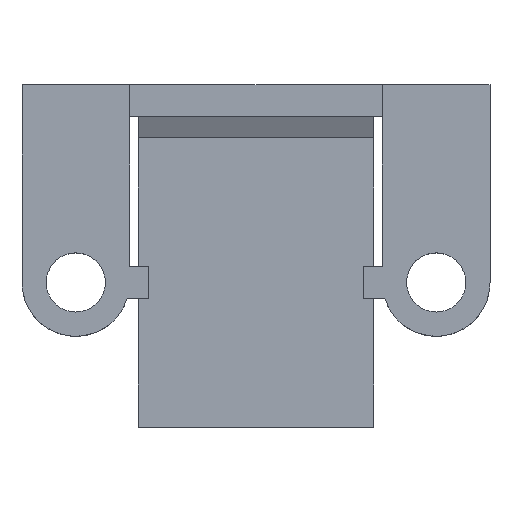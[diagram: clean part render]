
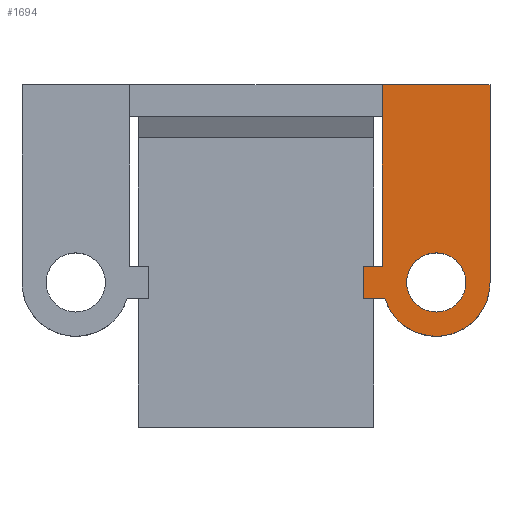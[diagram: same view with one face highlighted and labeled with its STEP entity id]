
A CAD part, top view. The second image highlights one B-rep face of the part: STEP entity #1694.
In plain terms, the highlighted planar face has unit normal (0, 0, 1).
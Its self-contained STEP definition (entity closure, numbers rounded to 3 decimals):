
#627 = PLANE('',#628);
#628 = AXIS2_PLACEMENT_3D('',#629,#630,#631);
#629 = CARTESIAN_POINT('',(-8.558,1.234,7.9));
#630 = DIRECTION('',(-0.,1.,0.));
#631 = DIRECTION('',(0.,0.,1.));
#767 = VERTEX_POINT('',#768);
#768 = CARTESIAN_POINT('',(4.842,1.234,9.1));
#782 = PLANE('',#783);
#783 = AXIS2_PLACEMENT_3D('',#784,#785,#786);
#784 = CARTESIAN_POINT('',(4.842,-6.116,7.9));
#785 = DIRECTION('',(1.,0.,-0.));
#786 = DIRECTION('',(0.,0.,1.));
#794 = EDGE_CURVE('',#767,#795,#797,.T.);
#795 = VERTEX_POINT('',#796);
#796 = CARTESIAN_POINT('',(8.842,1.234,9.1));
#797 = SURFACE_CURVE('',#798,(#802,#809),.PCURVE_S1.);
#798 = LINE('',#799,#800);
#799 = CARTESIAN_POINT('',(4.842,1.234,9.1));
#800 = VECTOR('',#801,1.);
#801 = DIRECTION('',(1.,0.,-0.));
#802 = PCURVE('',#627,#803);
#803 = DEFINITIONAL_REPRESENTATION('',(#804),#808);
#804 = LINE('',#805,#806);
#805 = CARTESIAN_POINT('',(1.2,13.4));
#806 = VECTOR('',#807,1.);
#807 = DIRECTION('',(0.,1.));
#808 = ( GEOMETRIC_REPRESENTATION_CONTEXT(2) 
PARAMETRIC_REPRESENTATION_CONTEXT() REPRESENTATION_CONTEXT('2D SPACE',''
  ) );
#809 = PCURVE('',#810,#815);
#810 = PLANE('',#811);
#811 = AXIS2_PLACEMENT_3D('',#812,#813,#814);
#812 = CARTESIAN_POINT('',(4.122,-6.716,9.1));
#813 = DIRECTION('',(0.,0.,1.));
#814 = DIRECTION('',(1.,0.,-0.));
#815 = DEFINITIONAL_REPRESENTATION('',(#816),#820);
#816 = LINE('',#817,#818);
#817 = CARTESIAN_POINT('',(0.72,7.95));
#818 = VECTOR('',#819,1.);
#819 = DIRECTION('',(1.,0.));
#820 = ( GEOMETRIC_REPRESENTATION_CONTEXT(2) 
PARAMETRIC_REPRESENTATION_CONTEXT() REPRESENTATION_CONTEXT('2D SPACE',''
  ) );
#836 = PLANE('',#837);
#837 = AXIS2_PLACEMENT_3D('',#838,#839,#840);
#838 = CARTESIAN_POINT('',(8.842,-6.116,7.9));
#839 = DIRECTION('',(1.,0.,-0.));
#840 = DIRECTION('',(0.,0.,1.));
#854 = VERTEX_POINT('',#855);
#855 = CARTESIAN_POINT('',(8.842,-6.116,9.1));
#869 = CYLINDRICAL_SURFACE('',#870,2.);
#870 = AXIS2_PLACEMENT_3D('',#871,#872,#873);
#871 = CARTESIAN_POINT('',(6.842,-6.116,7.5));
#872 = DIRECTION('',(0.,0.,1.));
#873 = DIRECTION('',(1.,0.,-0.));
#902 = EDGE_CURVE('',#854,#795,#903,.T.);
#903 = SURFACE_CURVE('',#904,(#908,#915),.PCURVE_S1.);
#904 = LINE('',#905,#906);
#905 = CARTESIAN_POINT('',(8.842,-6.116,9.1));
#906 = VECTOR('',#907,1.);
#907 = DIRECTION('',(-0.,1.,0.));
#908 = PCURVE('',#836,#909);
#909 = DEFINITIONAL_REPRESENTATION('',(#910),#914);
#910 = LINE('',#911,#912);
#911 = CARTESIAN_POINT('',(1.2,0.));
#912 = VECTOR('',#913,1.);
#913 = DIRECTION('',(0.,-1.));
#914 = ( GEOMETRIC_REPRESENTATION_CONTEXT(2) 
PARAMETRIC_REPRESENTATION_CONTEXT() REPRESENTATION_CONTEXT('2D SPACE',''
  ) );
#915 = PCURVE('',#810,#916);
#916 = DEFINITIONAL_REPRESENTATION('',(#917),#921);
#917 = LINE('',#918,#919);
#918 = CARTESIAN_POINT('',(4.72,0.6));
#919 = VECTOR('',#920,1.);
#920 = DIRECTION('',(0.,1.));
#921 = ( GEOMETRIC_REPRESENTATION_CONTEXT(2) 
PARAMETRIC_REPRESENTATION_CONTEXT() REPRESENTATION_CONTEXT('2D SPACE',''
  ) );
#950 = EDGE_CURVE('',#951,#854,#953,.T.);
#951 = VERTEX_POINT('',#952);
#952 = CARTESIAN_POINT('',(4.934,-6.716,9.1));
#953 = SURFACE_CURVE('',#954,(#959,#965),.PCURVE_S1.);
#954 = CIRCLE('',#955,2.);
#955 = AXIS2_PLACEMENT_3D('',#956,#957,#958);
#956 = CARTESIAN_POINT('',(6.842,-6.116,9.1));
#957 = DIRECTION('',(0.,0.,1.));
#958 = DIRECTION('',(1.,0.,-0.));
#959 = PCURVE('',#869,#960);
#960 = DEFINITIONAL_REPRESENTATION('',(#961),#964);
#961 = B_SPLINE_CURVE_WITH_KNOTS('',1,(#962,#963),.UNSPECIFIED.,.F.,.F.,
  (2,2),(3.446,6.283),.PIECEWISE_BEZIER_KNOTS.);
#962 = CARTESIAN_POINT('',(3.446,1.6));
#963 = CARTESIAN_POINT('',(6.283,1.6));
#964 = ( GEOMETRIC_REPRESENTATION_CONTEXT(2) 
PARAMETRIC_REPRESENTATION_CONTEXT() REPRESENTATION_CONTEXT('2D SPACE',''
  ) );
#965 = PCURVE('',#810,#966);
#966 = DEFINITIONAL_REPRESENTATION('',(#967),#971);
#967 = CIRCLE('',#968,2.);
#968 = AXIS2_PLACEMENT_2D('',#969,#970);
#969 = CARTESIAN_POINT('',(2.72,0.6));
#970 = DIRECTION('',(1.,0.));
#971 = ( GEOMETRIC_REPRESENTATION_CONTEXT(2) 
PARAMETRIC_REPRESENTATION_CONTEXT() REPRESENTATION_CONTEXT('2D SPACE',''
  ) );
#988 = PLANE('',#989);
#989 = AXIS2_PLACEMENT_3D('',#990,#991,#992);
#990 = CARTESIAN_POINT('',(4.122,-6.716,7.5));
#991 = DIRECTION('',(-0.,1.,0.));
#992 = DIRECTION('',(0.,0.,1.));
#1046 = PLANE('',#1047);
#1047 = AXIS2_PLACEMENT_3D('',#1048,#1049,#1050);
#1048 = CARTESIAN_POINT('',(4.122,-5.516,7.5));
#1049 = DIRECTION('',(-0.,1.,0.));
#1050 = DIRECTION('',(0.,0.,1.));
#1136 = VERTEX_POINT('',#1137);
#1137 = CARTESIAN_POINT('',(4.122,-5.516,9.1));
#1151 = PLANE('',#1152);
#1152 = AXIS2_PLACEMENT_3D('',#1153,#1154,#1155);
#1153 = CARTESIAN_POINT('',(4.122,-6.716,7.5));
#1154 = DIRECTION('',(1.,0.,-0.));
#1155 = DIRECTION('',(0.,0.,1.));
#1163 = EDGE_CURVE('',#1136,#1164,#1166,.T.);
#1164 = VERTEX_POINT('',#1165);
#1165 = CARTESIAN_POINT('',(4.842,-5.516,9.1));
#1166 = SURFACE_CURVE('',#1167,(#1171,#1178),.PCURVE_S1.);
#1167 = LINE('',#1168,#1169);
#1168 = CARTESIAN_POINT('',(4.122,-5.516,9.1));
#1169 = VECTOR('',#1170,1.);
#1170 = DIRECTION('',(1.,0.,-0.));
#1171 = PCURVE('',#1046,#1172);
#1172 = DEFINITIONAL_REPRESENTATION('',(#1173),#1177);
#1173 = LINE('',#1174,#1175);
#1174 = CARTESIAN_POINT('',(1.6,0.));
#1175 = VECTOR('',#1176,1.);
#1176 = DIRECTION('',(0.,1.));
#1177 = ( GEOMETRIC_REPRESENTATION_CONTEXT(2) 
PARAMETRIC_REPRESENTATION_CONTEXT() REPRESENTATION_CONTEXT('2D SPACE',''
  ) );
#1178 = PCURVE('',#810,#1179);
#1179 = DEFINITIONAL_REPRESENTATION('',(#1180),#1184);
#1180 = LINE('',#1181,#1182);
#1181 = CARTESIAN_POINT('',(0.,1.2));
#1182 = VECTOR('',#1183,1.);
#1183 = DIRECTION('',(1.,0.));
#1184 = ( GEOMETRIC_REPRESENTATION_CONTEXT(2) 
PARAMETRIC_REPRESENTATION_CONTEXT() REPRESENTATION_CONTEXT('2D SPACE',''
  ) );
#1469 = VERTEX_POINT('',#1470);
#1470 = CARTESIAN_POINT('',(4.122,-6.716,9.1));
#1513 = EDGE_CURVE('',#1469,#1136,#1514,.T.);
#1514 = SURFACE_CURVE('',#1515,(#1519,#1526),.PCURVE_S1.);
#1515 = LINE('',#1516,#1517);
#1516 = CARTESIAN_POINT('',(4.122,-6.716,9.1));
#1517 = VECTOR('',#1518,1.);
#1518 = DIRECTION('',(-0.,1.,0.));
#1519 = PCURVE('',#1151,#1520);
#1520 = DEFINITIONAL_REPRESENTATION('',(#1521),#1525);
#1521 = LINE('',#1522,#1523);
#1522 = CARTESIAN_POINT('',(1.6,0.));
#1523 = VECTOR('',#1524,1.);
#1524 = DIRECTION('',(0.,-1.));
#1525 = ( GEOMETRIC_REPRESENTATION_CONTEXT(2) 
PARAMETRIC_REPRESENTATION_CONTEXT() REPRESENTATION_CONTEXT('2D SPACE',''
  ) );
#1526 = PCURVE('',#810,#1527);
#1527 = DEFINITIONAL_REPRESENTATION('',(#1528),#1532);
#1528 = LINE('',#1529,#1530);
#1529 = CARTESIAN_POINT('',(0.,0.));
#1530 = VECTOR('',#1531,1.);
#1531 = DIRECTION('',(0.,1.));
#1532 = ( GEOMETRIC_REPRESENTATION_CONTEXT(2) 
PARAMETRIC_REPRESENTATION_CONTEXT() REPRESENTATION_CONTEXT('2D SPACE',''
  ) );
#1580 = CYLINDRICAL_SURFACE('',#1581,1.1);
#1581 = AXIS2_PLACEMENT_3D('',#1582,#1583,#1584);
#1582 = CARTESIAN_POINT('',(6.842,-6.116,7.));
#1583 = DIRECTION('',(0.,0.,1.));
#1584 = DIRECTION('',(1.,0.,-0.));
#1595 = EDGE_CURVE('',#1596,#1596,#1598,.T.);
#1596 = VERTEX_POINT('',#1597);
#1597 = CARTESIAN_POINT('',(7.942,-6.116,9.1));
#1598 = SURFACE_CURVE('',#1599,(#1604,#1611),.PCURVE_S1.);
#1599 = CIRCLE('',#1600,1.1);
#1600 = AXIS2_PLACEMENT_3D('',#1601,#1602,#1603);
#1601 = CARTESIAN_POINT('',(6.842,-6.116,9.1));
#1602 = DIRECTION('',(0.,0.,-1.));
#1603 = DIRECTION('',(1.,0.,0.));
#1604 = PCURVE('',#1580,#1605);
#1605 = DEFINITIONAL_REPRESENTATION('',(#1606),#1610);
#1606 = LINE('',#1607,#1608);
#1607 = CARTESIAN_POINT('',(6.283,2.1));
#1608 = VECTOR('',#1609,1.);
#1609 = DIRECTION('',(-1.,-0.));
#1610 = ( GEOMETRIC_REPRESENTATION_CONTEXT(2) 
PARAMETRIC_REPRESENTATION_CONTEXT() REPRESENTATION_CONTEXT('2D SPACE',''
  ) );
#1611 = PCURVE('',#810,#1612);
#1612 = DEFINITIONAL_REPRESENTATION('',(#1613),#1621);
#1613 = ( BOUNDED_CURVE() B_SPLINE_CURVE(2,(#1614,#1615,#1616,#1617,
#1618,#1619,#1620),.UNSPECIFIED.,.T.,.F.) B_SPLINE_CURVE_WITH_KNOTS((1,2
    ,2,2,2,1),(-2.094,0.,2.094,4.189,
6.283,8.378),.UNSPECIFIED.) CURVE() 
GEOMETRIC_REPRESENTATION_ITEM() RATIONAL_B_SPLINE_CURVE((1.,0.5,1.,0.5,
1.,0.5,1.)) REPRESENTATION_ITEM('') );
#1614 = CARTESIAN_POINT('',(3.82,0.6));
#1615 = CARTESIAN_POINT('',(3.82,-1.305));
#1616 = CARTESIAN_POINT('',(2.17,-0.353));
#1617 = CARTESIAN_POINT('',(0.52,0.6));
#1618 = CARTESIAN_POINT('',(2.17,1.553));
#1619 = CARTESIAN_POINT('',(3.82,2.505));
#1620 = CARTESIAN_POINT('',(3.82,0.6));
#1621 = ( GEOMETRIC_REPRESENTATION_CONTEXT(2) 
PARAMETRIC_REPRESENTATION_CONTEXT() REPRESENTATION_CONTEXT('2D SPACE',''
  ) );
#1673 = EDGE_CURVE('',#1469,#951,#1674,.T.);
#1674 = SURFACE_CURVE('',#1675,(#1679,#1686),.PCURVE_S1.);
#1675 = LINE('',#1676,#1677);
#1676 = CARTESIAN_POINT('',(4.122,-6.716,9.1));
#1677 = VECTOR('',#1678,1.);
#1678 = DIRECTION('',(1.,0.,-0.));
#1679 = PCURVE('',#988,#1680);
#1680 = DEFINITIONAL_REPRESENTATION('',(#1681),#1685);
#1681 = LINE('',#1682,#1683);
#1682 = CARTESIAN_POINT('',(1.6,0.));
#1683 = VECTOR('',#1684,1.);
#1684 = DIRECTION('',(0.,1.));
#1685 = ( GEOMETRIC_REPRESENTATION_CONTEXT(2) 
PARAMETRIC_REPRESENTATION_CONTEXT() REPRESENTATION_CONTEXT('2D SPACE',''
  ) );
#1686 = PCURVE('',#810,#1687);
#1687 = DEFINITIONAL_REPRESENTATION('',(#1688),#1692);
#1688 = LINE('',#1689,#1690);
#1689 = CARTESIAN_POINT('',(0.,0.));
#1690 = VECTOR('',#1691,1.);
#1691 = DIRECTION('',(1.,0.));
#1692 = ( GEOMETRIC_REPRESENTATION_CONTEXT(2) 
PARAMETRIC_REPRESENTATION_CONTEXT() REPRESENTATION_CONTEXT('2D SPACE',''
  ) );
#1694 = ADVANCED_FACE('',(#1695,#1724),#810,.T.);
#1695 = FACE_BOUND('',#1696,.T.);
#1696 = EDGE_LOOP('',(#1697,#1698,#1699,#1700,#1701,#1702,#1703));
#1697 = ORIENTED_EDGE('',*,*,#1163,.F.);
#1698 = ORIENTED_EDGE('',*,*,#1513,.F.);
#1699 = ORIENTED_EDGE('',*,*,#1673,.T.);
#1700 = ORIENTED_EDGE('',*,*,#950,.T.);
#1701 = ORIENTED_EDGE('',*,*,#902,.T.);
#1702 = ORIENTED_EDGE('',*,*,#794,.F.);
#1703 = ORIENTED_EDGE('',*,*,#1704,.F.);
#1704 = EDGE_CURVE('',#1164,#767,#1705,.T.);
#1705 = SURFACE_CURVE('',#1706,(#1710,#1717),.PCURVE_S1.);
#1706 = LINE('',#1707,#1708);
#1707 = CARTESIAN_POINT('',(4.842,-6.116,9.1));
#1708 = VECTOR('',#1709,1.);
#1709 = DIRECTION('',(-0.,1.,0.));
#1710 = PCURVE('',#810,#1711);
#1711 = DEFINITIONAL_REPRESENTATION('',(#1712),#1716);
#1712 = LINE('',#1713,#1714);
#1713 = CARTESIAN_POINT('',(0.72,0.6));
#1714 = VECTOR('',#1715,1.);
#1715 = DIRECTION('',(0.,1.));
#1716 = ( GEOMETRIC_REPRESENTATION_CONTEXT(2) 
PARAMETRIC_REPRESENTATION_CONTEXT() REPRESENTATION_CONTEXT('2D SPACE',''
  ) );
#1717 = PCURVE('',#782,#1718);
#1718 = DEFINITIONAL_REPRESENTATION('',(#1719),#1723);
#1719 = LINE('',#1720,#1721);
#1720 = CARTESIAN_POINT('',(1.2,0.));
#1721 = VECTOR('',#1722,1.);
#1722 = DIRECTION('',(0.,-1.));
#1723 = ( GEOMETRIC_REPRESENTATION_CONTEXT(2) 
PARAMETRIC_REPRESENTATION_CONTEXT() REPRESENTATION_CONTEXT('2D SPACE',''
  ) );
#1724 = FACE_BOUND('',#1725,.T.);
#1725 = EDGE_LOOP('',(#1726));
#1726 = ORIENTED_EDGE('',*,*,#1595,.T.);
